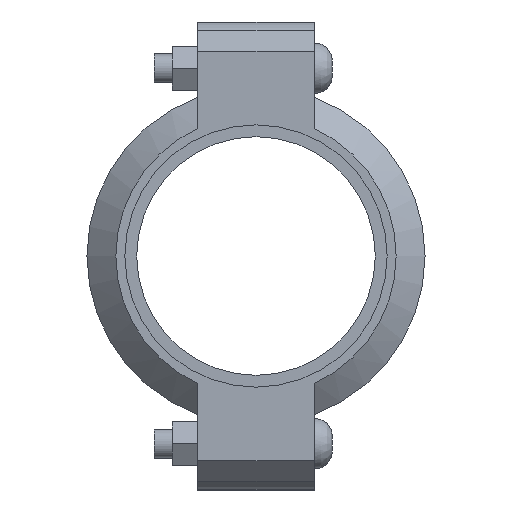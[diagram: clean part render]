
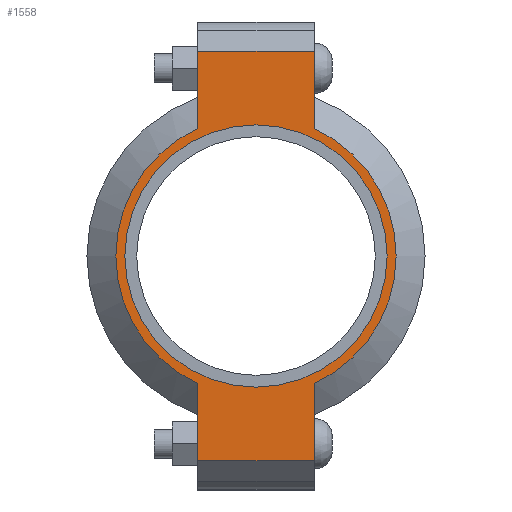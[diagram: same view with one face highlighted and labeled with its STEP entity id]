
A CAD part, left-side view. The second image highlights one B-rep face of the part: STEP entity #1558.
In plain terms, the highlighted planar face has unit normal (-1, 0, 0) as drawn and (0, 0, 1) by its records, which use the part's own axes.
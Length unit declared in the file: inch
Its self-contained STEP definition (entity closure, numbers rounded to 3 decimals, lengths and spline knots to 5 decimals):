
#182=LINE('',#2719,#275);
#190=LINE('',#2755,#283);
#197=LINE('',#2776,#290);
#206=LINE('',#2808,#299);
#207=LINE('',#2812,#300);
#208=LINE('',#2814,#301);
#275=VECTOR('',#2215,0.3937);
#283=VECTOR('',#2231,0.3937);
#290=VECTOR('',#2250,0.3937);
#299=VECTOR('',#2275,0.3937);
#300=VECTOR('',#2280,0.3937);
#301=VECTOR('',#2281,0.3937);
#357=FACE_BOUND('',#535,.T.);
#429=FACE_OUTER_BOUND('',#534,.T.);
#534=EDGE_LOOP('',(#1299,#1300,#1301,#1302,#1303,#1304,#1305,#1306));
#535=EDGE_LOOP('',(#1307));
#607=CIRCLE('',#1777,2.25);
#633=CIRCLE('',#1836,2.405);
#634=CIRCLE('',#1837,2.405);
#699=VERTEX_POINT('',#2535);
#742=VERTEX_POINT('',#2716);
#743=VERTEX_POINT('',#2718);
#754=VERTEX_POINT('',#2750);
#755=VERTEX_POINT('',#2754);
#762=VERTEX_POINT('',#2773);
#763=VERTEX_POINT('',#2775);
#773=VERTEX_POINT('',#2811);
#774=VERTEX_POINT('',#2813);
#855=EDGE_CURVE('',#699,#699,#607,.T.);
#916=EDGE_CURVE('',#743,#742,#182,.T.);
#930=EDGE_CURVE('',#755,#754,#190,.T.);
#940=EDGE_CURVE('',#763,#762,#197,.T.);
#955=EDGE_CURVE('',#755,#742,#206,.T.);
#956=EDGE_CURVE('',#754,#763,#633,.T.);
#957=EDGE_CURVE('',#773,#762,#207,.T.);
#958=EDGE_CURVE('',#773,#774,#208,.T.);
#959=EDGE_CURVE('',#774,#743,#634,.T.);
#1299=ORIENTED_EDGE('',*,*,#955,.F.);
#1300=ORIENTED_EDGE('',*,*,#930,.T.);
#1301=ORIENTED_EDGE('',*,*,#956,.T.);
#1302=ORIENTED_EDGE('',*,*,#940,.T.);
#1303=ORIENTED_EDGE('',*,*,#957,.F.);
#1304=ORIENTED_EDGE('',*,*,#958,.T.);
#1305=ORIENTED_EDGE('',*,*,#959,.T.);
#1306=ORIENTED_EDGE('',*,*,#916,.T.);
#1307=ORIENTED_EDGE('',*,*,#855,.T.);
#1400=PLANE('',#1835);
#1558=ADVANCED_FACE('',(#429,#357),#1400,.T.);
#1777=AXIS2_PLACEMENT_3D('',#2537,#2091,#2092);
#1835=AXIS2_PLACEMENT_3D('',#2809,#2276,#2277);
#1836=AXIS2_PLACEMENT_3D('',#2810,#2278,#2279);
#1837=AXIS2_PLACEMENT_3D('',#2815,#2282,#2283);
#2091=DIRECTION('center_axis',(0.,0.,-1.));
#2092=DIRECTION('ref_axis',(-1.,0.,0.));
#2215=DIRECTION('',(-1.,0.,0.));
#2231=DIRECTION('',(1.,0.,0.));
#2250=DIRECTION('',(1.,0.,0.));
#2275=DIRECTION('',(0.,1.,0.));
#2276=DIRECTION('center_axis',(0.,0.,1.));
#2277=DIRECTION('ref_axis',(1.,0.,0.));
#2278=DIRECTION('center_axis',(0.,0.,1.));
#2279=DIRECTION('ref_axis',(-1.,0.,0.));
#2280=DIRECTION('',(0.,-1.,0.));
#2281=DIRECTION('',(-1.,0.,0.));
#2282=DIRECTION('center_axis',(0.,0.,1.));
#2283=DIRECTION('ref_axis',(-1.,0.,0.));
#2535=CARTESIAN_POINT('',(2.25,0.,1.065));
#2537=CARTESIAN_POINT('Origin',(0.,0.,1.065));
#2716=CARTESIAN_POINT('',(-3.515,1.,1.065));
#2718=CARTESIAN_POINT('',(-2.18724,1.,1.065));
#2719=CARTESIAN_POINT('',(-4.015,1.,1.065));
#2750=CARTESIAN_POINT('',(-2.18724,-1.,1.065));
#2754=CARTESIAN_POINT('',(-3.515,-1.,1.065));
#2755=CARTESIAN_POINT('',(4.015,-1.,1.065));
#2773=CARTESIAN_POINT('',(3.515,-1.,1.065));
#2775=CARTESIAN_POINT('',(2.18724,-1.,1.065));
#2776=CARTESIAN_POINT('',(4.015,-1.,1.065));
#2808=CARTESIAN_POINT('',(-3.515,0.5,1.065));
#2809=CARTESIAN_POINT('Origin',(0.,0.,1.065));
#2810=CARTESIAN_POINT('Origin',(0.,0.,1.065));
#2811=CARTESIAN_POINT('',(3.515,1.,1.065));
#2812=CARTESIAN_POINT('',(3.515,-0.5,1.065));
#2813=CARTESIAN_POINT('',(2.18724,1.,1.065));
#2814=CARTESIAN_POINT('',(-4.015,1.,1.065));
#2815=CARTESIAN_POINT('Origin',(0.,0.,1.065));
